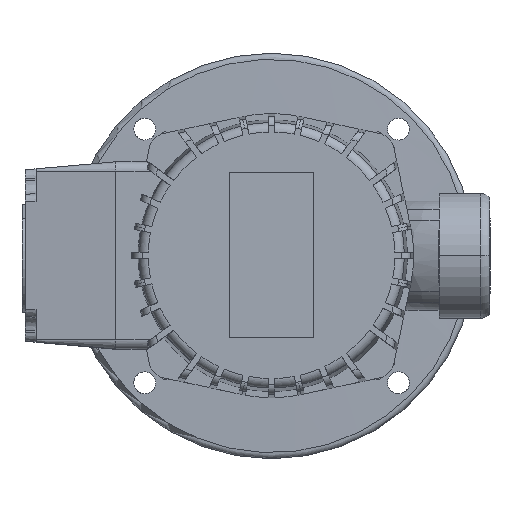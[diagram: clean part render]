
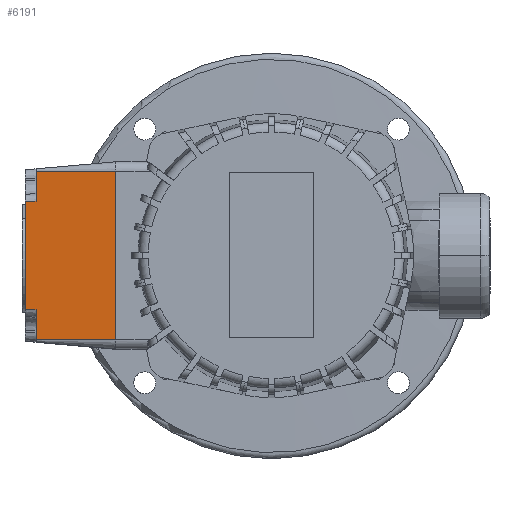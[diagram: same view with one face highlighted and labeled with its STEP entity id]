
A CAD part, top view. The second image highlights one B-rep face of the part: STEP entity #6191.
In plain terms, the highlighted planar face has unit normal (-0.087, 0, 0.996).
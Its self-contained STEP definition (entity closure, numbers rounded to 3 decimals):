
#3317=EDGE_CURVE('',#9259,#8031,#9816,.T.);
#4399=VERTEX_POINT('',#11012);
#5457=VERTEX_POINT('',#12167);
#5665=EDGE_CURVE('',#8031,#8029,#12393,.T.);
#5705=EDGE_CURVE('',#7107,#5457,#12439,.T.);
#6191=ADVANCED_FACE('',(#12972),#12973,.T.);
#6727=EDGE_CURVE('',#7801,#9259,#13569,.T.);
#7107=VERTEX_POINT('',#13995);
#7233=EDGE_CURVE('',#9483,#5457,#14136,.T.);
#7427=EDGE_CURVE('',#4399,#7801,#14350,.T.);
#7801=VERTEX_POINT('',#14757);
#7935=EDGE_CURVE('',#7107,#4399,#14905,.T.);
#8029=VERTEX_POINT('',#15010);
#8031=VERTEX_POINT('',#15012);
#8543=EDGE_CURVE('',#8029,#9483,#15565,.T.);
#9259=VERTEX_POINT('',#16343);
#9483=VERTEX_POINT('',#16592);
#9816=B_SPLINE_CURVE_WITH_KNOTS('',2,(#17033,#17034,#17035),.UNSPECIFIED.,.F.,.F.,(3,3),(0.0,3.513),.UNSPECIFIED.);
#11012=CARTESIAN_POINT('',(-50.0,27.0,62.5));
#12167=CARTESIAN_POINT('',(-75.5,-27.0,60.269));
#12393=LINE('',#22592,#22593);
#12439=LINE('',#22652,#22653);
#12972=FACE_OUTER_BOUND('',#23789,.T.);
#12973=PLANE('',#23790);
#13569=LINE('',#25100,#25101);
#13995=CARTESIAN_POINT('',(-50.0,-27.0,62.5));
#14136=LINE('',#26249,#26250);
#14350=LINE('',#26726,#26727);
#14757=CARTESIAN_POINT('',(-75.5,27.0,60.269));
#14905=LINE('',#28016,#28017);
#15010=CARTESIAN_POINT('',(-79.0,-17.326,59.963));
#15012=CARTESIAN_POINT('',(-79.0,17.326,59.963));
#15565=B_SPLINE_CURVE_WITH_KNOTS('',2,(#29251,#29252,#29253),.UNSPECIFIED.,.F.,.F.,(3,3),(0.0,3.513),.UNSPECIFIED.);
#16343=CARTESIAN_POINT('',(-75.5,17.353,60.269));
#16592=CARTESIAN_POINT('',(-75.5,-17.353,60.269));
#17033=CARTESIAN_POINT('',(-75.5,17.353,60.269));
#17034=CARTESIAN_POINT('',(-77.297,17.339,60.112));
#17035=CARTESIAN_POINT('',(-79.0,17.326,59.963));
#22592=CARTESIAN_POINT('',(-79.0,-27.0,59.963));
#22593=VECTOR('',#35183,1.0);
#22652=CARTESIAN_POINT('',(-50.0,-27.0,62.5));
#22653=VECTOR('',#35248,1.0);
#23789=EDGE_LOOP('',(#35829,#35830,#35831,#35832,#35833,#35834,#35835,#35836));
#23790=AXIS2_PLACEMENT_3D('',#35837,#35838,#35839);
#25100=CARTESIAN_POINT('',(-75.5,25.811,60.269));
#25101=VECTOR('',#36545,1.0);
#26249=CARTESIAN_POINT('',(-75.5,1.189,60.269));
#26250=VECTOR('',#37299,1.0);
#26726=CARTESIAN_POINT('',(-50.0,27.0,62.5));
#26727=VECTOR('',#37544,1.0);
#28016=CARTESIAN_POINT('',(-50.0,-27.0,62.5));
#28017=VECTOR('',#38152,1.0);
#29251=CARTESIAN_POINT('',(-79.0,-17.326,59.963));
#29252=CARTESIAN_POINT('',(-77.297,-17.339,60.112));
#29253=CARTESIAN_POINT('',(-75.5,-17.353,60.269));
#35183=DIRECTION('',(0.0,-1.0,0.0));
#35248=DIRECTION('',(-0.996,0.,-0.087));
#35829=ORIENTED_EDGE('',*,*,#7233,.T.);
#35830=ORIENTED_EDGE('',*,*,#5705,.F.);
#35831=ORIENTED_EDGE('',*,*,#7935,.T.);
#35832=ORIENTED_EDGE('',*,*,#7427,.T.);
#35833=ORIENTED_EDGE('',*,*,#6727,.T.);
#35834=ORIENTED_EDGE('',*,*,#3317,.T.);
#35835=ORIENTED_EDGE('',*,*,#5665,.T.);
#35836=ORIENTED_EDGE('',*,*,#8543,.T.);
#35837=CARTESIAN_POINT('',(-50.0,27.0,62.5));
#35838=DIRECTION('',(-0.087,0.0,0.996));
#35839=DIRECTION('',(0.0,1.0,0.0));
#36545=DIRECTION('',(0.0,-1.0,0.0));
#37299=DIRECTION('',(0.0,-1.0,0.0));
#37544=DIRECTION('',(-0.996,0.0,-0.087));
#38152=DIRECTION('',(0.0,1.0,0.0));
